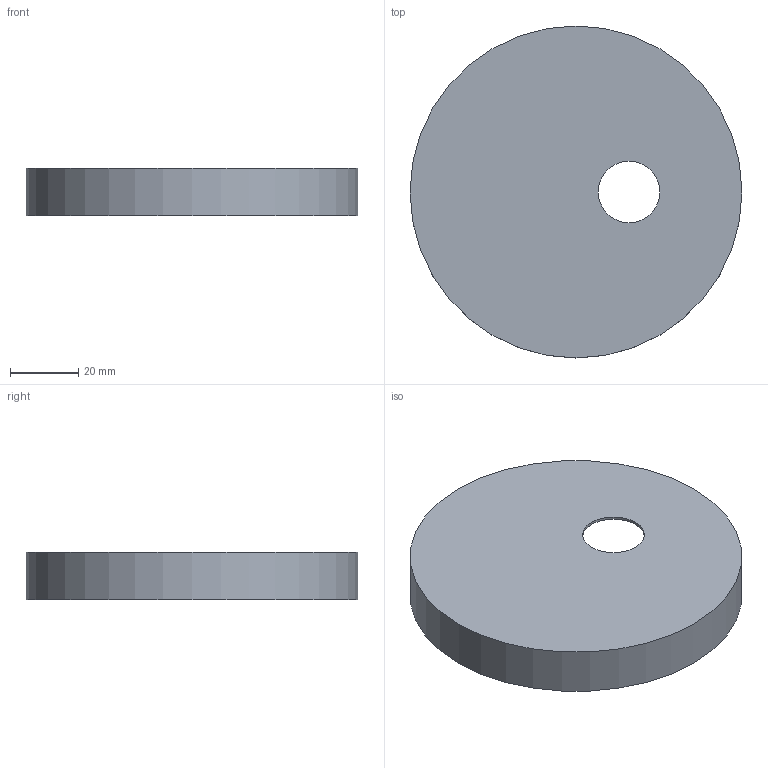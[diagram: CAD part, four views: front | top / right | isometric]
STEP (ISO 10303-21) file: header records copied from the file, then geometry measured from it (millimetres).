
FILE_DESCRIPTION(('Open CASCADE Model'),'2;1');
FILE_NAME('Open CASCADE Shape Model','2026-10-21T10:33:18',('Author'),( 'Open CASCADE'),'Open CASCADE STEP processor 7.9','Open CASCADE 7.9' ,'Unknown');
FILE_SCHEMA(('AUTOMOTIVE_DESIGN { 1 0 10303 214 1 1 1 1 }'));
Length unit declared in the file: millimetre
Products named in the file (1): Open CASCADE STEP translator 7.9 19
Bounding box: 97 x 97 x 14 mm (x, y, z)
Volume: 8899.7 mm3; surface area: 22538.4 mm2
Topology: 1 solids, 1 shells, 6 faces, 9 edges, 6 vertices
Faces by surface type: cylinder 3, plane 3
Full cylindrical faces by diameter (mm): 18 x1, 95.4 x1, 97 x1
Entity records: 279 total; most frequent: CARTESIAN_POINT 58, DIRECTION 44, ORIENTED_EDGE 18, PCURVE 18, DEFINITIONAL_REPRESENTATION 18, LINE 15, VECTOR 15, AXIS2_PLACEMENT_3D 13
